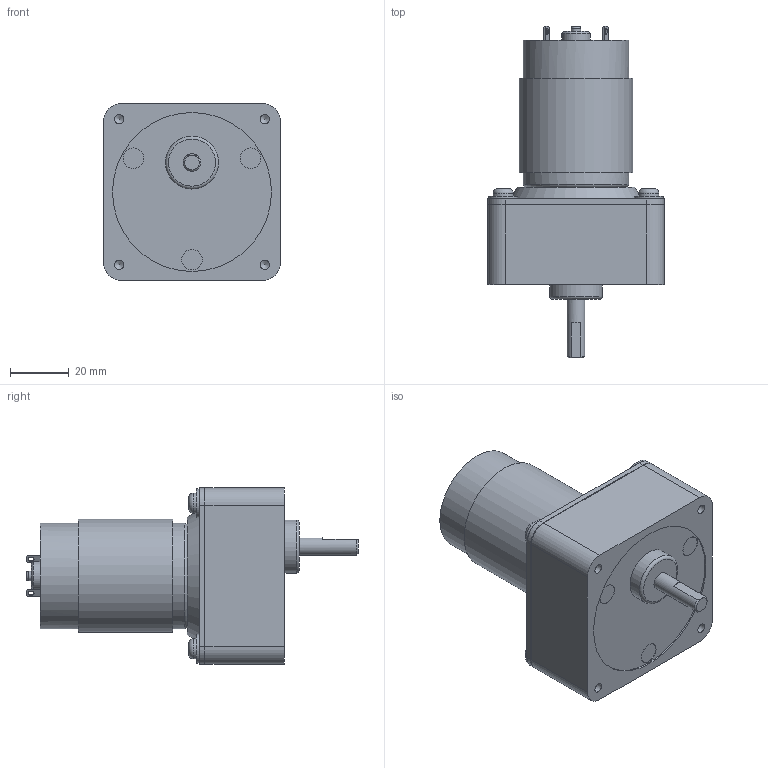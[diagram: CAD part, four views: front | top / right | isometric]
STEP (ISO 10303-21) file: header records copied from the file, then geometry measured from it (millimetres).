
FILE_DESCRIPTION(/* description */ (''),/* implementation_level */ '2;1');
FILE_NAME(/* name */ 'TP-3850#-CE.stp',/* time_stamp */ '2023-11-01T13:18:28+09:00',/* author */ ('user'),/* organization */ (''),/* preprocessor_version */ 'ST-DEVELOPER v19.2',/* originating_system */ 'Autodesk Inventor 2024',/* authorisation */ '');
FILE_SCHEMA (('AUTOMOTIVE_DESIGN { 1 0 10303 214 3 1 1 }'));
Length unit declared in the file: millimetre
Products named in the file (3): TP-3850#-CE-J00-24; ce; TP-3850K(RS-645)
Assembly tree (2 placements, depth 2):
  TP-3850#-CE-J00-24
    ce
    TP-3850K(RS-645)
Bounding box: 60 x 112.8 x 60 mm (x, y, z)
Volume: 165714.5 mm3; surface area: 24475.1 mm2
Topology: 2 solids, 2 shells, 159 faces, 350 edges, 230 vertices
Faces by surface type: plane 79, cylinder 55, torus 14, cone 11
Full cylindrical faces by diameter (mm): 1.5 x1, 2.459 x2, 2.5 x5, 3.17 x2, 3.242 x4, 6 x1, 6.8 x4, 7 x3, 7.4 x1, 9.8 x5, 11 x1, 13 x1, 18 x1, 34.8 x1, 35.8 x1, 54 x1
Entity records: 4595 total; most frequent: DIRECTION 832, CARTESIAN_POINT 742, ORIENTED_EDGE 688, EDGE_CURVE 344, AXIS2_PLACEMENT_3D 326, VERTEX_POINT 230, EDGE_LOOP 204, LINE 180
